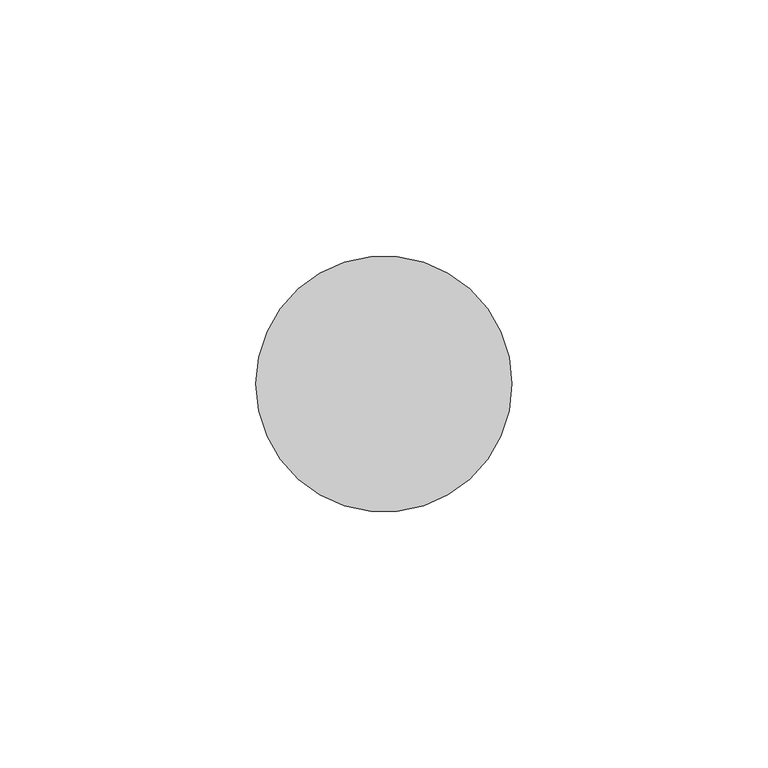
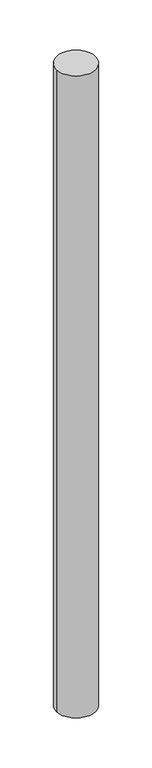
"""IFC4 building model written with IfcOpenShell, lengths in millimetres: member geometry, 圆形竖梃 : 25mm 半径."""

from ifc_helpers import new_model, si_unit, point, frame, frame_2d, origin, place, context, project, spatial, circle_curve, trimmed, segment, composite_curve, outline, extrude, source, transform, mapped, element, save


def member_b2874c62(model_context):
    return source(origin(), model_context, "Body", "SweptSolid", [
        extrude(outline(composite_curve([segment(trimmed(circle_curve(frame_2d((-25.0, 0.0)), 25.0), [point((0.0, 0.0))], [point((-50.0, 0.0))], False, "CARTESIAN"), True, "CONTINUOUS"), segment(trimmed(circle_curve(frame_2d((-25.0, 0.0)), 25.0), [point((-50.0, 0.0))], [point((0.0, 0.0))], False, "CARTESIAN"), True, "CONTINUOUS")], self_intersect=False)), frame((0.0, 0.0, -865.0), z_axis=(0.0, 0.0, 1.0), x_axis=(1.0, 0.0, 0.0)), (0.0, 0.0, 1.0), 865.0),
    ])


if __name__ == "__main__":
    model = new_model("IFC4")
    model_context = context("Model", 3, world=origin())
    ifc_project = project(units=[si_unit("LENGTHUNIT", "METRE", prefix="MILLI")], contexts=[model_context])
    site = spatial("IfcSite", under=ifc_project)
    building = spatial("IfcBuilding", under=site)
    placement = place(None, origin())
    member_shape = member_b2874c62(model_context)
    element("IfcMember", 1, ObjectType="圆形竖梃 : 25mm 半径", at=placement, inside=building, context=model_context, shape_type="MappedRepresentation", body=[
        mapped(member_shape, transform((0.0, 0.0, 0.0), x_axis=(1.0, 0.0, 0.0), y_axis=(0.0, 1.0, 0.0), z_axis=(0.0, 0.0, 1.0))),
    ])
    save(model, "model.ifc")
